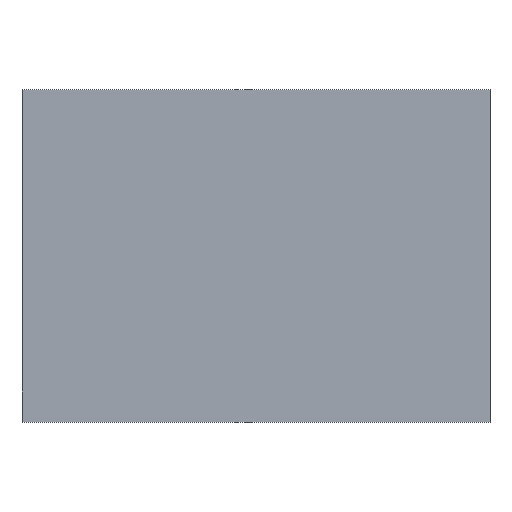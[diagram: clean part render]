
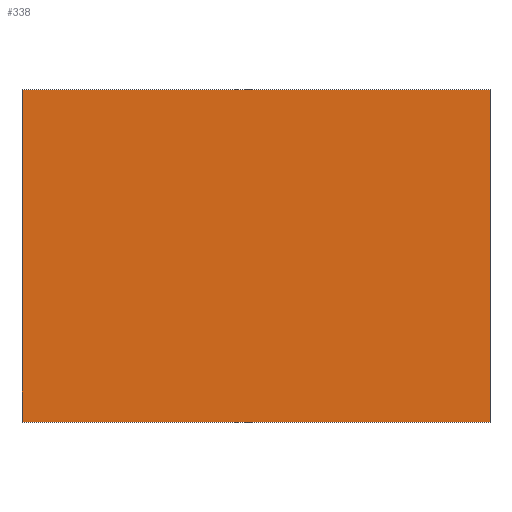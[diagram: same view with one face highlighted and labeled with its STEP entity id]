
A CAD part, top view. The second image highlights one B-rep face of the part: STEP entity #338.
In plain terms, the highlighted planar face has unit normal (0, 0, 1).
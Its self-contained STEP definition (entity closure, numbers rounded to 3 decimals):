
#24 = VERTEX_POINT('',#25);
#25 = CARTESIAN_POINT('',(-3.625,-2.575,31.885));
#32 = PLANE('',#33);
#33 = AXIS2_PLACEMENT_3D('',#34,#35,#36);
#34 = CARTESIAN_POINT('',(-3.625,-2.575,28.685));
#35 = DIRECTION('',(1.,0.,0.));
#36 = DIRECTION('',(0.,0.,1.));
#44 = PLANE('',#45);
#45 = AXIS2_PLACEMENT_3D('',#46,#47,#48);
#46 = CARTESIAN_POINT('',(-3.625,-2.575,28.685));
#47 = DIRECTION('',(0.,1.,0.));
#48 = DIRECTION('',(0.,0.,1.));
#85 = VERTEX_POINT('',#86);
#86 = CARTESIAN_POINT('',(-3.625,2.575,31.885));
#100 = PLANE('',#101);
#101 = AXIS2_PLACEMENT_3D('',#102,#103,#104);
#102 = CARTESIAN_POINT('',(-3.625,2.575,28.685));
#103 = DIRECTION('',(0.,1.,0.));
#104 = DIRECTION('',(0.,0.,1.));
#112 = EDGE_CURVE('',#24,#85,#113,.T.);
#113 = SURFACE_CURVE('',#114,(#118,#125),.PCURVE_S1.);
#114 = LINE('',#115,#116);
#115 = CARTESIAN_POINT('',(-3.625,-2.575,31.885));
#116 = VECTOR('',#117,1.);
#117 = DIRECTION('',(0.,1.,0.));
#118 = PCURVE('',#32,#119);
#119 = DEFINITIONAL_REPRESENTATION('',(#120),#124);
#120 = LINE('',#121,#122);
#121 = CARTESIAN_POINT('',(3.2,0.));
#122 = VECTOR('',#123,1.);
#123 = DIRECTION('',(0.,-1.));
#124 = ( GEOMETRIC_REPRESENTATION_CONTEXT(2) 
PARAMETRIC_REPRESENTATION_CONTEXT() REPRESENTATION_CONTEXT('2D SPACE',''
  ) );
#125 = PCURVE('',#126,#131);
#126 = PLANE('',#127);
#127 = AXIS2_PLACEMENT_3D('',#128,#129,#130);
#128 = CARTESIAN_POINT('',(-3.625,-2.575,31.885));
#129 = DIRECTION('',(0.,0.,1.));
#130 = DIRECTION('',(1.,0.,0.));
#131 = DEFINITIONAL_REPRESENTATION('',(#132),#136);
#132 = LINE('',#133,#134);
#133 = CARTESIAN_POINT('',(0.,0.));
#134 = VECTOR('',#135,1.);
#135 = DIRECTION('',(0.,1.));
#136 = ( GEOMETRIC_REPRESENTATION_CONTEXT(2) 
PARAMETRIC_REPRESENTATION_CONTEXT() REPRESENTATION_CONTEXT('2D SPACE',''
  ) );
#144 = VERTEX_POINT('',#145);
#145 = CARTESIAN_POINT('',(3.625,-2.575,31.885));
#152 = PLANE('',#153);
#153 = AXIS2_PLACEMENT_3D('',#154,#155,#156);
#154 = CARTESIAN_POINT('',(3.625,-2.575,28.685));
#155 = DIRECTION('',(1.,0.,0.));
#156 = DIRECTION('',(0.,0.,1.));
#195 = VERTEX_POINT('',#196);
#196 = CARTESIAN_POINT('',(3.625,2.575,31.885));
#217 = EDGE_CURVE('',#144,#195,#218,.T.);
#218 = SURFACE_CURVE('',#219,(#223,#230),.PCURVE_S1.);
#219 = LINE('',#220,#221);
#220 = CARTESIAN_POINT('',(3.625,-2.575,31.885));
#221 = VECTOR('',#222,1.);
#222 = DIRECTION('',(0.,1.,0.));
#223 = PCURVE('',#152,#224);
#224 = DEFINITIONAL_REPRESENTATION('',(#225),#229);
#225 = LINE('',#226,#227);
#226 = CARTESIAN_POINT('',(3.2,0.));
#227 = VECTOR('',#228,1.);
#228 = DIRECTION('',(0.,-1.));
#229 = ( GEOMETRIC_REPRESENTATION_CONTEXT(2) 
PARAMETRIC_REPRESENTATION_CONTEXT() REPRESENTATION_CONTEXT('2D SPACE',''
  ) );
#230 = PCURVE('',#126,#231);
#231 = DEFINITIONAL_REPRESENTATION('',(#232),#236);
#232 = LINE('',#233,#234);
#233 = CARTESIAN_POINT('',(7.25,0.));
#234 = VECTOR('',#235,1.);
#235 = DIRECTION('',(0.,1.));
#236 = ( GEOMETRIC_REPRESENTATION_CONTEXT(2) 
PARAMETRIC_REPRESENTATION_CONTEXT() REPRESENTATION_CONTEXT('2D SPACE',''
  ) );
#263 = EDGE_CURVE('',#24,#144,#264,.T.);
#264 = SURFACE_CURVE('',#265,(#269,#276),.PCURVE_S1.);
#265 = LINE('',#266,#267);
#266 = CARTESIAN_POINT('',(-3.625,-2.575,31.885));
#267 = VECTOR('',#268,1.);
#268 = DIRECTION('',(1.,0.,0.));
#269 = PCURVE('',#44,#270);
#270 = DEFINITIONAL_REPRESENTATION('',(#271),#275);
#271 = LINE('',#272,#273);
#272 = CARTESIAN_POINT('',(3.2,0.));
#273 = VECTOR('',#274,1.);
#274 = DIRECTION('',(0.,1.));
#275 = ( GEOMETRIC_REPRESENTATION_CONTEXT(2) 
PARAMETRIC_REPRESENTATION_CONTEXT() REPRESENTATION_CONTEXT('2D SPACE',''
  ) );
#276 = PCURVE('',#126,#277);
#277 = DEFINITIONAL_REPRESENTATION('',(#278),#282);
#278 = LINE('',#279,#280);
#279 = CARTESIAN_POINT('',(0.,0.));
#280 = VECTOR('',#281,1.);
#281 = DIRECTION('',(1.,0.));
#282 = ( GEOMETRIC_REPRESENTATION_CONTEXT(2) 
PARAMETRIC_REPRESENTATION_CONTEXT() REPRESENTATION_CONTEXT('2D SPACE',''
  ) );
#310 = EDGE_CURVE('',#85,#195,#311,.T.);
#311 = SURFACE_CURVE('',#312,(#316,#323),.PCURVE_S1.);
#312 = LINE('',#313,#314);
#313 = CARTESIAN_POINT('',(-3.625,2.575,31.885));
#314 = VECTOR('',#315,1.);
#315 = DIRECTION('',(1.,0.,0.));
#316 = PCURVE('',#100,#317);
#317 = DEFINITIONAL_REPRESENTATION('',(#318),#322);
#318 = LINE('',#319,#320);
#319 = CARTESIAN_POINT('',(3.2,0.));
#320 = VECTOR('',#321,1.);
#321 = DIRECTION('',(0.,1.));
#322 = ( GEOMETRIC_REPRESENTATION_CONTEXT(2) 
PARAMETRIC_REPRESENTATION_CONTEXT() REPRESENTATION_CONTEXT('2D SPACE',''
  ) );
#323 = PCURVE('',#126,#324);
#324 = DEFINITIONAL_REPRESENTATION('',(#325),#329);
#325 = LINE('',#326,#327);
#326 = CARTESIAN_POINT('',(0.,5.15));
#327 = VECTOR('',#328,1.);
#328 = DIRECTION('',(1.,0.));
#329 = ( GEOMETRIC_REPRESENTATION_CONTEXT(2) 
PARAMETRIC_REPRESENTATION_CONTEXT() REPRESENTATION_CONTEXT('2D SPACE',''
  ) );
#338 = ADVANCED_FACE('',(#339),#126,.T.);
#339 = FACE_BOUND('',#340,.T.);
#340 = EDGE_LOOP('',(#341,#342,#343,#344));
#341 = ORIENTED_EDGE('',*,*,#112,.F.);
#342 = ORIENTED_EDGE('',*,*,#263,.T.);
#343 = ORIENTED_EDGE('',*,*,#217,.T.);
#344 = ORIENTED_EDGE('',*,*,#310,.F.);
